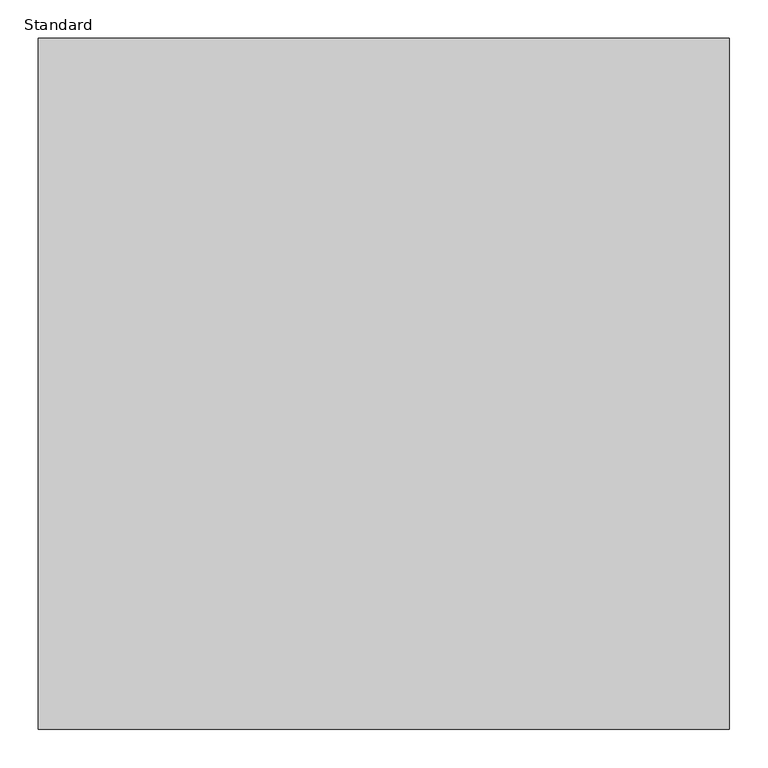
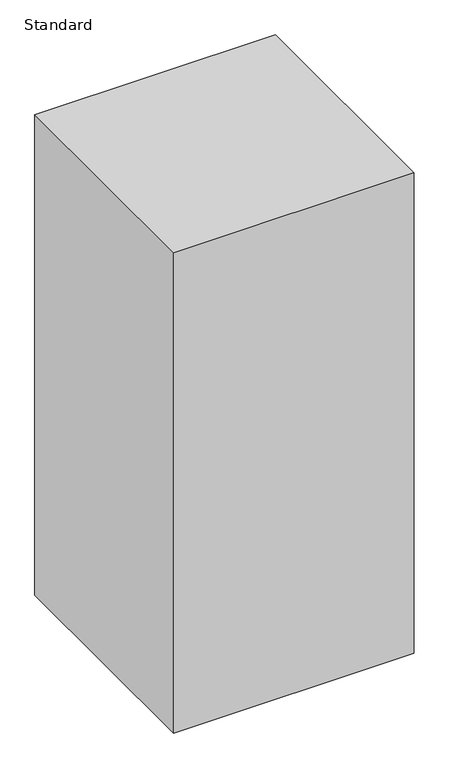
"""IFC4 building model written with IfcOpenShell, lengths in millimetres: proxy geometry, Clearance-Door-Circulation-AS1428.1-2021-Duracube : Standard."""

from ifc_helpers import new_model, si_unit, origin, origin_with_axes, place, context, project, spatial, polyline, outline, extrude, source, transform, mapped, element, save


def standard_ef1a4fdd(model_context):
    return source(origin(), model_context, "Body", "SweptSolid", [
        extrude(outline(polyline([(450.0, -450.0), (-450.0, -450.0), (-450.0, 450.0), (450.0, 450.0), (450.0, -450.0)])), origin_with_axes(), (0.0, 0.0, 1.0), 1900.0),
    ])


if __name__ == "__main__":
    model = new_model("IFC4")
    model_context = context("Model", 3, world=origin())
    ifc_project = project(units=[si_unit("LENGTHUNIT", "METRE", prefix="MILLI")], contexts=[model_context])
    site = spatial("IfcSite", under=ifc_project)
    building = spatial("IfcBuilding", under=site)
    placement = place(None, origin())
    standard_shape = standard_ef1a4fdd(model_context)
    element("IfcBuildingElementProxy", 1, Name="Clearance-Door-Circulation-AS1428.1-2021-Duracube : Standard", ObjectType="Clearance-Door-Circulation-AS1428.1-2021-Duracube : Standard", at=placement, inside=building, context=model_context, shape_type="MappedRepresentation", body=[
        mapped(standard_shape, transform((0.0, 0.0, 0.0), x_axis=(1.0, 0.0, 0.0), y_axis=(0.0, 1.0, 0.0), z_axis=(0.0, 0.0, 1.0))),
    ])
    save(model, "model.ifc")
